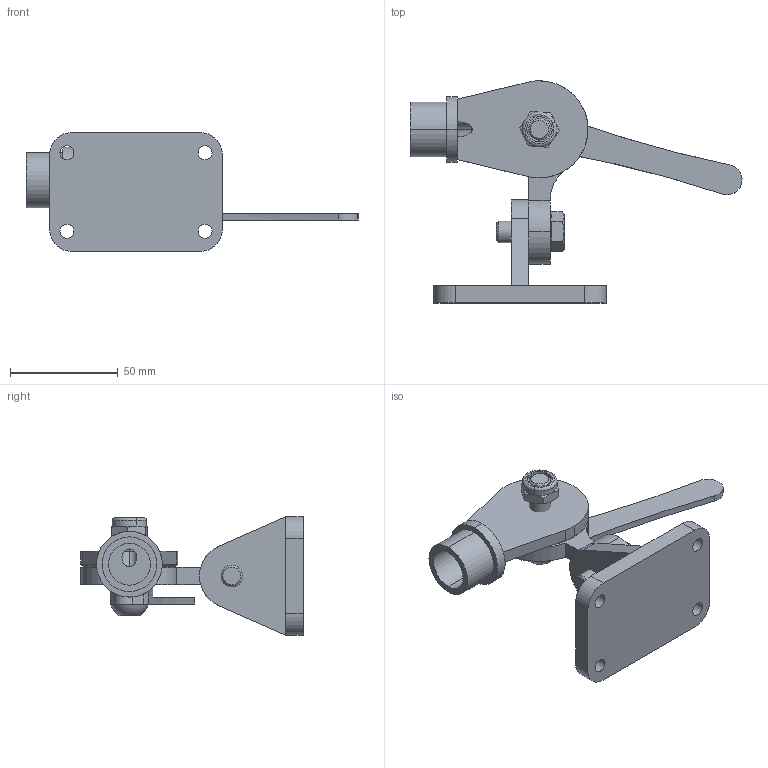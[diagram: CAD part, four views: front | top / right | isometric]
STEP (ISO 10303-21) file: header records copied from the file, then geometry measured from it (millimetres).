
FILE_DESCRIPTION (( 'STEP AP214' ), '1' );
FILE_NAME ('ratchet mount with T-profile.STEP', '2019-03-23T17:57:25', ( '' ), ( '' ), 'SwSTEP 2.0', 'SolidWorks 2018', '' );
FILE_SCHEMA (( 'AUTOMOTIVE_DESIGN' ));
Length unit declared in the file: millimetre
Products named in the file (8): ratchet mount - part 4_Default<As Machined>; ratchet mount - part 5_Default<As Machined>; ratchet mount - bolt_ISO 7380 - M10 x 16 --- 16C-A4-80; ISO 4017_ISO 4017 - M10 x 25  A4-80; ratchet mount - part 3_Default<As Machined>; ratchet mount with T-profile; ISO 10511_ISO 10511 - M10  A4-80; ratchet mount - alternative base_Default<As Machined>
Assembly tree (7 placements, depth 2):
  ratchet mount with T-profile
    ratchet mount - part 3_Default<As Machined>
    ratchet mount - part 4_Default<As Machined>
    ISO 4017_ISO 4017 - M10 x 25  A4-80
    ratchet mount - part 5_Default<As Machined>
    ratchet mount - bolt_ISO 7380 - M10 x 16 --- 16C-A4-80
    ISO 10511_ISO 10511 - M10  A4-80
    ratchet mount - alternative base_Default<As Machined>
Bounding box: 153.92 x 103 x 55 mm (x, y, z)
Volume: 98077.5 mm3; surface area: 39984.1 mm2
Topology: 7 solids, 7 shells, 319 faces, 762 edges, 475 vertices
Faces by surface type: plane 181, cone 68, cylinder 62, torus 6, sphere 2
Entity records: 9855 total; most frequent: CARTESIAN_POINT 2006, DIRECTION 1551, ORIENTED_EDGE 1520, EDGE_CURVE 760, AXIS2_PLACEMENT_3D 576, VERTEX_POINT 475, LINE 399, VECTOR 399
